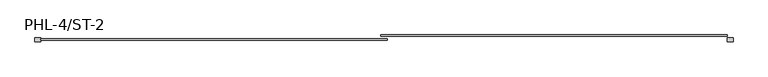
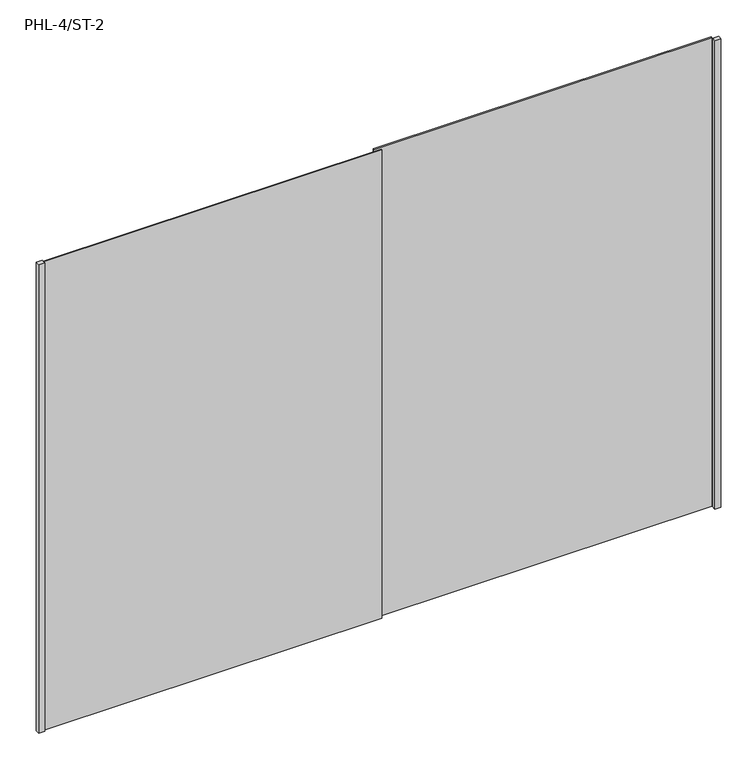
"""IFC4 building model written with IfcOpenShell, lengths in millimetres: furniture geometry, Puerta Closet corre 2 hojas : PHL-4/ST-2."""

from ifc_helpers import new_model, si_unit, origin, origin_with_axes, place, context, project, spatial, polyline, outline, extrude, source, transform, mapped, element, save


def phl_4_st_2_7a90008c(model_context):
    return source(origin(), model_context, "Body", "SweptSolid", [
        extrude(outline(polyline([(1195.0, 80.0), (1165.0, 80.0), (1165.0, 100.0), (1195.0, 100.0), (1195.0, 80.0)])), origin_with_axes(), (0.0, 0.0, 1.0), 2520.0),
        extrude(outline(polyline([(1165.0, 106.6666667), (-555.0, 106.6666667), (-555.0, 113.3333333), (1165.0, 113.3333333), (1165.0, 106.6666667)])), origin_with_axes(), (0.0, 0.0, 1.0), 2520.0),
        extrude(outline(polyline([(-525.0, 86.6666667), (-2245.0, 86.6666667), (-2245.0, 93.3333333), (-525.0, 93.3333333), (-525.0, 86.6666667)])), origin_with_axes(), (0.0, 0.0, 1.0), 2520.0),
        extrude(outline(polyline([(-2275.0, 80.0), (-2275.0, 100.0), (-2245.0, 100.0), (-2245.0, 80.0), (-2275.0, 80.0)])), origin_with_axes(), (0.0, 0.0, 1.0), 2520.0),
    ])


if __name__ == "__main__":
    model = new_model("IFC4")
    model_context = context("Model", 3, world=origin())
    ifc_project = project(units=[si_unit("LENGTHUNIT", "METRE", prefix="MILLI")], contexts=[model_context])
    site = spatial("IfcSite", under=ifc_project)
    building = spatial("IfcBuilding", under=site)
    placement = place(None, origin())
    phl_4_st_2_shape = phl_4_st_2_7a90008c(model_context)
    element("IfcFurniture", 1, ObjectType="Puerta Closet corre 2 hojas : PHL-4/ST-2", at=placement, inside=building, context=model_context, shape_type="MappedRepresentation", body=[
        mapped(phl_4_st_2_shape, transform((0.0, 0.0, 0.0), x_axis=(1.0, 0.0, 0.0), y_axis=(0.0, 1.0, 0.0), z_axis=(0.0, 0.0, 1.0))),
    ])
    save(model, "model.ifc")
